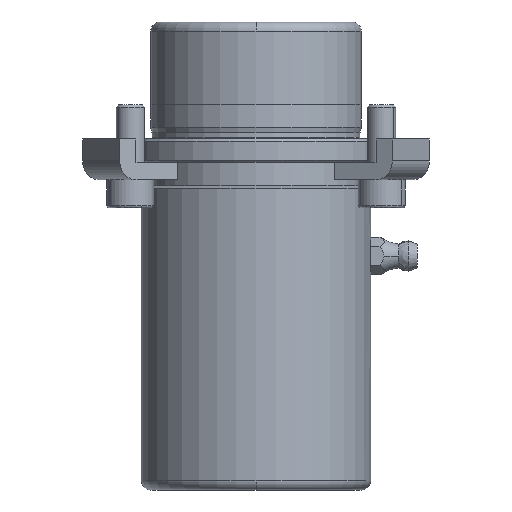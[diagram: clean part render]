
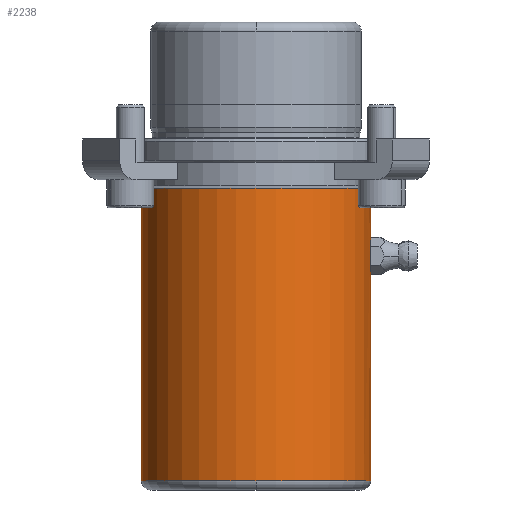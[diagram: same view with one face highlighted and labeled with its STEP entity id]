
A CAD part, front view. The second image highlights one B-rep face of the part: STEP entity #2238.
In plain terms, the highlighted cylindrical face has radius 24.5 mm (diameter 49 mm), a partial arc.
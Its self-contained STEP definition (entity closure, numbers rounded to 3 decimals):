
#604=CARTESIAN_POINT('',(0.,-24.5,-73.0));
#605=VERTEX_POINT('',#604);
#613=CARTESIAN_POINT('',(-24.5,0.,-73.0));
#614=VERTEX_POINT('',#613);
#615=CARTESIAN_POINT('',(0.0,0.,-73.0));
#616=DIRECTION('',(0.0,0.0,-1.0));
#617=DIRECTION('',(1.0,0.0,0.0));
#618=AXIS2_PLACEMENT_3D('',#615,#616,#617);
#619=CIRCLE('',#618,24.5);
#620=EDGE_CURVE('',#605,#614,#619,.T.);
#637=CARTESIAN_POINT('',(24.5,0.,-73.0));
#638=VERTEX_POINT('',#637);
#639=CARTESIAN_POINT('',(24.5,0.,-27.5));
#640=VERTEX_POINT('',#639);
#641=CARTESIAN_POINT('',(24.5,0.,-73.0));
#642=DIRECTION('',(0.0,0.0,1.0));
#643=VECTOR('',#642,45.5);
#644=LINE('',#641,#643);
#645=EDGE_CURVE('',#638,#640,#644,.T.);
#655=CARTESIAN_POINT('',(-24.5,0.,-10.5));
#656=VERTEX_POINT('',#655);
#657=CARTESIAN_POINT('',(-24.5,0.,-73.0));
#658=DIRECTION('',(0.0,0.0,1.0));
#659=VECTOR('',#658,62.5);
#660=LINE('',#657,#659);
#661=EDGE_CURVE('',#614,#656,#660,.T.);
#663=CARTESIAN_POINT('',(24.5,0.,-10.5));
#664=VERTEX_POINT('',#663);
#672=CARTESIAN_POINT('',(24.5,0.,-22.5));
#673=VERTEX_POINT('',#672);
#674=CARTESIAN_POINT('',(24.5,0.,-22.5));
#675=DIRECTION('',(0.0,0.0,1.0));
#676=VECTOR('',#675,12.0);
#677=LINE('',#674,#676);
#678=EDGE_CURVE('',#673,#664,#677,.T.);
#1577=CARTESIAN_POINT('',(24.372,-2.5,-25.0));
#1578=VERTEX_POINT('',#1577);
#1579=CARTESIAN_POINT('',(24.372,-2.5,-25.0));
#1580=CARTESIAN_POINT('',(24.372,-2.5,-24.843));
#1581=CARTESIAN_POINT('',(24.374,-2.485,-24.681));
#1582=CARTESIAN_POINT('',(24.38,-2.422,-24.358));
#1583=CARTESIAN_POINT('',(24.385,-2.373,-24.197));
#1584=CARTESIAN_POINT('',(24.397,-2.246,-23.889));
#1585=CARTESIAN_POINT('',(24.404,-2.166,-23.741));
#1586=CARTESIAN_POINT('',(24.42,-1.983,-23.468));
#1587=CARTESIAN_POINT('',(24.428,-1.879,-23.343));
#1588=CARTESIAN_POINT('',(24.444,-1.657,-23.121));
#1589=CARTESIAN_POINT('',(24.452,-1.532,-23.017));
#1590=CARTESIAN_POINT('',(24.468,-1.259,-22.834));
#1591=CARTESIAN_POINT('',(24.475,-1.111,-22.754));
#1592=CARTESIAN_POINT('',(24.487,-0.803,-22.627));
#1593=CARTESIAN_POINT('',(24.492,-0.642,-22.578));
#1594=CARTESIAN_POINT('',(24.498,-0.319,-22.515));
#1595=CARTESIAN_POINT('',(24.5,-0.157,-22.5));
#1596=CARTESIAN_POINT('',(24.5,0.,-22.5));
#1597=B_SPLINE_CURVE_WITH_KNOTS('',3,(#1579,#1580,#1581,#1582,#1583,#1584,#1585,#1586,#1587,#1588,#1589,#1590,#1591,#1592,#1593,#1594,#1595,#1596),.UNSPECIFIED.,.F.,.U.,(4,2,2,2,2,2,2,2,4),(0.0,0.471,0.942,1.414,1.885,2.356,2.827,3.298,3.77),.UNSPECIFIED.);
#1598=EDGE_CURVE('',#1578,#673,#1597,.T.);
#1600=CARTESIAN_POINT('',(24.5,0.,-27.5));
#1601=CARTESIAN_POINT('',(24.5,-0.157,-27.5));
#1602=CARTESIAN_POINT('',(24.498,-0.319,-27.485));
#1603=CARTESIAN_POINT('',(24.492,-0.642,-27.422));
#1604=CARTESIAN_POINT('',(24.487,-0.803,-27.373));
#1605=CARTESIAN_POINT('',(24.475,-1.111,-27.246));
#1606=CARTESIAN_POINT('',(24.468,-1.259,-27.166));
#1607=CARTESIAN_POINT('',(24.452,-1.532,-26.983));
#1608=CARTESIAN_POINT('',(24.444,-1.657,-26.879));
#1609=CARTESIAN_POINT('',(24.428,-1.879,-26.657));
#1610=CARTESIAN_POINT('',(24.42,-1.983,-26.532));
#1611=CARTESIAN_POINT('',(24.404,-2.166,-26.259));
#1612=CARTESIAN_POINT('',(24.397,-2.246,-26.111));
#1613=CARTESIAN_POINT('',(24.385,-2.373,-25.803));
#1614=CARTESIAN_POINT('',(24.38,-2.422,-25.642));
#1615=CARTESIAN_POINT('',(24.374,-2.485,-25.319));
#1616=CARTESIAN_POINT('',(24.372,-2.5,-25.157));
#1617=CARTESIAN_POINT('',(24.372,-2.5,-25.0));
#1618=B_SPLINE_CURVE_WITH_KNOTS('',3,(#1600,#1601,#1602,#1603,#1604,#1605,#1606,#1607,#1608,#1609,#1610,#1611,#1612,#1613,#1614,#1615,#1616,#1617),.UNSPECIFIED.,.F.,.U.,(4,2,2,2,2,2,2,2,4),(11.309,11.78,12.251,12.723,13.194,13.665,14.136,14.608,15.079),.UNSPECIFIED.);
#1619=EDGE_CURVE('',#640,#1578,#1618,.T.);
#2207=CARTESIAN_POINT('',(0.0,0.,-10.5));
#2208=DIRECTION('',(0.0,0.0,-1.0));
#2209=DIRECTION('',(1.0,0.0,0.0));
#2210=AXIS2_PLACEMENT_3D('',#2207,#2208,#2209);
#2211=CIRCLE('',#2210,24.5);
#2212=EDGE_CURVE('',#664,#656,#2211,.T.);
#2217=CARTESIAN_POINT('',(0.0,0.,-41.75));
#2218=DIRECTION('',(0.0,0.,-1.0));
#2219=DIRECTION('',(1.0,0.0,0.0));
#2220=AXIS2_PLACEMENT_3D('',#2217,#2218,#2219);
#2221=CYLINDRICAL_SURFACE('',#2220,24.5);
#2222=ORIENTED_EDGE('',*,*,#645,.T.);
#2223=ORIENTED_EDGE('',*,*,#1619,.T.);
#2224=ORIENTED_EDGE('',*,*,#1598,.T.);
#2225=ORIENTED_EDGE('',*,*,#678,.T.);
#2226=ORIENTED_EDGE('',*,*,#2212,.T.);
#2227=ORIENTED_EDGE('',*,*,#661,.F.);
#2228=ORIENTED_EDGE('',*,*,#620,.F.);
#2229=CARTESIAN_POINT('',(0.0,0.,-73.0));
#2230=DIRECTION('',(0.0,0.0,-1.0));
#2231=DIRECTION('',(1.0,0.0,0.0));
#2232=AXIS2_PLACEMENT_3D('',#2229,#2230,#2231);
#2233=CIRCLE('',#2232,24.5);
#2234=EDGE_CURVE('',#638,#605,#2233,.T.);
#2235=ORIENTED_EDGE('',*,*,#2234,.F.);
#2236=EDGE_LOOP('',(#2222,#2223,#2224,#2225,#2226,#2227,#2228,#2235));
#2237=FACE_OUTER_BOUND('',#2236,.T.);
#2238=ADVANCED_FACE('',(#2237),#2221,.T.);
